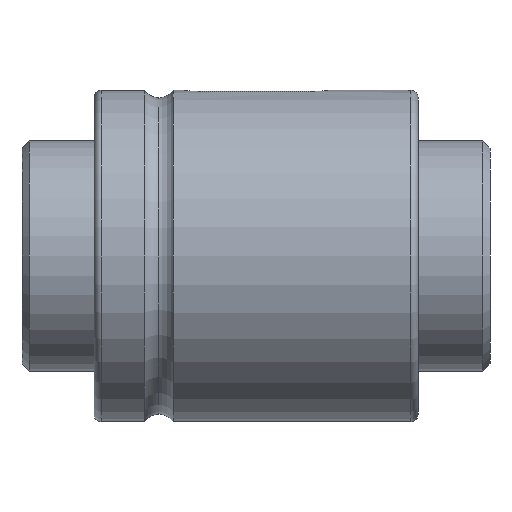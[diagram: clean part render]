
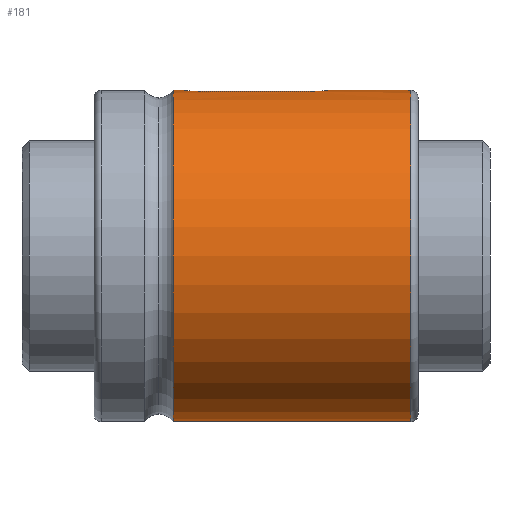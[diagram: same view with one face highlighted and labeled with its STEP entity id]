
A CAD part, front view. The second image highlights one B-rep face of the part: STEP entity #181.
In plain terms, the highlighted cylindrical face has radius 23 mm (diameter 46 mm), a partial arc.
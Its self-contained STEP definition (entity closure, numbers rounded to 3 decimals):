
#126 = CARTESIAN_POINT ( 'NONE',  ( 45., -2.5, 22.864 ) ) ;
#181 = ADVANCED_FACE ( 'NONE', ( #2736 ), #525, .T. ) ;
#190 = DIRECTION ( 'NONE',  ( 0., 0., 1. ) ) ;
#227 = CARTESIAN_POINT ( 'NONE',  ( 44., 0., 23. ) ) ;
#305 = CARTESIAN_POINT ( 'NONE',  ( 32.5, 0., 23. ) ) ;
#366 = EDGE_CURVE ( 'NONE', #3776, #483, #624, .T. ) ;
#404 = ORIENTED_EDGE ( 'NONE', *, *, #2341, .T. ) ;
#440 = DIRECTION ( 'NONE',  ( -1., 0., 0. ) ) ;
#471 = CIRCLE ( 'NONE', #1704, 23. ) ;
#483 = VERTEX_POINT ( 'NONE', #899 ) ;
#525 = CYLINDRICAL_SURFACE ( 'NONE', #1883, 23. ) ;
#561 = CARTESIAN_POINT ( 'NONE',  ( 14.353, -2.42, 22.872 ) ) ;
#579 = CARTESIAN_POINT ( 'NONE',  ( 12.5, 0., 23. ) ) ;
#624 = CIRCLE ( 'NONE', #1114, 23. ) ;
#629 = CARTESIAN_POINT ( 'NONE',  ( 31.883, -1.652, 22.941 ) ) ;
#769 = CARTESIAN_POINT ( 'NONE',  ( 44., 0., 0. ) ) ;
#882 = CARTESIAN_POINT ( 'NONE',  ( 14.672, -2.484, 22.866 ) ) ;
#888 = DIRECTION ( 'NONE',  ( -1., 0., 0. ) ) ;
#899 = CARTESIAN_POINT ( 'NONE',  ( 11., 0., -23. ) ) ;
#961 = CARTESIAN_POINT ( 'NONE',  ( 32.17, -1.252, 22.966 ) ) ;
#963 = ORIENTED_EDGE ( 'NONE', *, *, #2930, .T. ) ;
#995 = DIRECTION ( 'NONE',  ( -1., 0., 0. ) ) ;
#1111 = CARTESIAN_POINT ( 'NONE',  ( 30., -2.5, 22.864 ) ) ;
#1114 = AXIS2_PLACEMENT_3D ( 'NONE', #2739, #2406, #190 ) ;
#1164 = EDGE_CURVE ( 'NONE', #3378, #483, #3356, .T. ) ;
#1168 = DIRECTION ( 'NONE',  ( -1., 0., 0. ) ) ;
#1219 = CARTESIAN_POINT ( 'NONE',  ( 13.477, -1.989, 22.914 ) ) ;
#1233 = CARTESIAN_POINT ( 'NONE',  ( 12.754, -1.109, 22.974 ) ) ;
#1297 = CARTESIAN_POINT ( 'NONE',  ( 31.653, -1.882, 22.923 ) ) ;
#1348 = CARTESIAN_POINT ( 'NONE',  ( 32.5, -0.165, 23. ) ) ;
#1425 = DIRECTION ( 'NONE',  ( 0., 0., -1. ) ) ;
#1433 = LINE ( 'NONE', #1687, #2920 ) ;
#1494 = VERTEX_POINT ( 'NONE', #3270 ) ;
#1523 = EDGE_CURVE ( 'NONE', #3002, #3423, #3791, .T. ) ;
#1539 = VECTOR ( 'NONE', #888, 1000. ) ;
#1546 = CARTESIAN_POINT ( 'NONE',  ( 12.5, -0.33, 23. ) ) ;
#1603 = CARTESIAN_POINT ( 'NONE',  ( 30.659, -2.434, 22.871 ) ) ;
#1634 = CARTESIAN_POINT ( 'NONE',  ( 31.528, -1.986, 22.914 ) ) ;
#1655 = ORIENTED_EDGE ( 'NONE', *, *, #2017, .T. ) ;
#1667 = CARTESIAN_POINT ( 'NONE',  ( 32.372, -0.806, 22.986 ) ) ;
#1687 = CARTESIAN_POINT ( 'NONE',  ( 45., 0., 23. ) ) ;
#1704 = AXIS2_PLACEMENT_3D ( 'NONE', #769, #440, #1425 ) ;
#1715 = ORIENTED_EDGE ( 'NONE', *, *, #366, .T. ) ;
#1853 = CARTESIAN_POINT ( 'NONE',  ( 12.831, -1.255, 22.966 ) ) ;
#1868 = CARTESIAN_POINT ( 'NONE',  ( 13.014, -1.528, 22.95 ) ) ;
#1883 = AXIS2_PLACEMENT_3D ( 'NONE', #3065, #3696, #1942 ) ;
#1904 = CARTESIAN_POINT ( 'NONE',  ( 13.892, -2.247, 22.89 ) ) ;
#1928 = CARTESIAN_POINT ( 'NONE',  ( 30.33, -2.5, 22.864 ) ) ;
#1942 = DIRECTION ( 'NONE',  ( 0., 0., 1. ) ) ;
#1978 = CARTESIAN_POINT ( 'NONE',  ( 31.109, -2.246, 22.89 ) ) ;
#2017 = EDGE_CURVE ( 'NONE', #3378, #2160, #471, .T. ) ;
#2073 = ORIENTED_EDGE ( 'NONE', *, *, #1164, .F. ) ;
#2160 = VERTEX_POINT ( 'NONE', #227 ) ;
#2217 = CARTESIAN_POINT ( 'NONE',  ( 15., -2.5, 22.864 ) ) ;
#2219 = B_SPLINE_CURVE_WITH_KNOTS ( 'NONE', 3,
 ( #2217, #3152, #882, #561, #2471, #1904, #2829, #1219, #3728, #3115, #1868, #1853, #1233, #2484, #1546, #579 ),
 .UNSPECIFIED., .F., .F.,
 ( 4, 2, 2, 2, 2, 2, 2, 4 ),
 ( -0.004, -0.003, -0.003, -0.002, -0.002, -0.001, -0.001, 0. ),
 .UNSPECIFIED. ) ;
#2225 = CARTESIAN_POINT ( 'NONE',  ( 31.989, -1.523, 22.95 ) ) ;
#2235 = ORIENTED_EDGE ( 'NONE', *, *, #1523, .T. ) ;
#2236 = CARTESIAN_POINT ( 'NONE',  ( 32.484, -0.328, 22.998 ) ) ;
#2280 = CARTESIAN_POINT ( 'NONE',  ( 32.42, -0.647, 22.991 ) ) ;
#2286 = EDGE_CURVE ( 'NONE', #3423, #3679, #2219, .T. ) ;
#2341 = EDGE_CURVE ( 'NONE', #3679, #3776, #4047, .T. ) ;
#2388 = B_SPLINE_CURVE_WITH_KNOTS ( 'NONE', 3,
 ( #305, #1348, #2236, #2280, #1667, #4117, #961, #2225, #629, #1297, #1634, #3176, #1978, #1603, #1928, #2911 ),
 .UNSPECIFIED., .F., .F.,
 ( 4, 2, 2, 2, 2, 2, 2, 4 ),
 ( 0.004, 0.004, 0.005, 0.005, 0.006, 0.006, 0.007, 0.008 ),
 .UNSPECIFIED. ) ;
#2406 = DIRECTION ( 'NONE',  ( 1., 0., 0. ) ) ;
#2471 = CARTESIAN_POINT ( 'NONE',  ( 14.194, -2.372, 22.877 ) ) ;
#2484 = CARTESIAN_POINT ( 'NONE',  ( 12.566, -0.659, 22.993 ) ) ;
#2736 = FACE_OUTER_BOUND ( 'NONE', #3516, .T. ) ;
#2739 = CARTESIAN_POINT ( 'NONE',  ( 11., 0., 0. ) ) ;
#2746 = ORIENTED_EDGE ( 'NONE', *, *, #2286, .T. ) ;
#2755 = EDGE_CURVE ( 'NONE', #1494, #3002, #2388, .T. ) ;
#2829 = CARTESIAN_POINT ( 'NONE',  ( 13.748, -2.17, 22.898 ) ) ;
#2885 = CARTESIAN_POINT ( 'NONE',  ( 11., 0., 23. ) ) ;
#2911 = CARTESIAN_POINT ( 'NONE',  ( 30., -2.5, 22.864 ) ) ;
#2920 = VECTOR ( 'NONE', #1168, 1000. ) ;
#2930 = EDGE_CURVE ( 'NONE', #2160, #1494, #1433, .T. ) ;
#3002 = VERTEX_POINT ( 'NONE', #1111 ) ;
#3065 = CARTESIAN_POINT ( 'NONE',  ( 45., 0., 0. ) ) ;
#3115 = CARTESIAN_POINT ( 'NONE',  ( 13.118, -1.653, 22.941 ) ) ;
#3152 = CARTESIAN_POINT ( 'NONE',  ( 14.835, -2.5, 22.864 ) ) ;
#3176 = CARTESIAN_POINT ( 'NONE',  ( 31.255, -2.169, 22.898 ) ) ;
#3259 = VECTOR ( 'NONE', #995, 1000. ) ;
#3270 = CARTESIAN_POINT ( 'NONE',  ( 32.5, 0., 23. ) ) ;
#3285 = CARTESIAN_POINT ( 'NONE',  ( 12.5, 0., 23. ) ) ;
#3356 = LINE ( 'NONE', #3706, #1539 ) ;
#3378 = VERTEX_POINT ( 'NONE', #3709 ) ;
#3402 = VECTOR ( 'NONE', #3624, 1000. ) ;
#3423 = VERTEX_POINT ( 'NONE', #4074 ) ;
#3491 = CARTESIAN_POINT ( 'NONE',  ( 45., 0., 23. ) ) ;
#3516 = EDGE_LOOP ( 'NONE', ( #2073, #1655, #963, #3716, #2235, #2746, #404, #1715 ) ) ;
#3624 = DIRECTION ( 'NONE',  ( -1., 0., 0. ) ) ;
#3679 = VERTEX_POINT ( 'NONE', #3285 ) ;
#3696 = DIRECTION ( 'NONE',  ( -1., 0., 0. ) ) ;
#3706 = CARTESIAN_POINT ( 'NONE',  ( 45., 0., -23. ) ) ;
#3709 = CARTESIAN_POINT ( 'NONE',  ( 44., 0., -23. ) ) ;
#3716 = ORIENTED_EDGE ( 'NONE', *, *, #2755, .T. ) ;
#3728 = CARTESIAN_POINT ( 'NONE',  ( 13.348, -1.883, 22.923 ) ) ;
#3776 = VERTEX_POINT ( 'NONE', #2885 ) ;
#3791 = LINE ( 'NONE', #126, #3402 ) ;
#4047 = LINE ( 'NONE', #3491, #3259 ) ;
#4074 = CARTESIAN_POINT ( 'NONE',  ( 15., -2.5, 22.864 ) ) ;
#4117 = CARTESIAN_POINT ( 'NONE',  ( 32.247, -1.108, 22.974 ) ) ;
